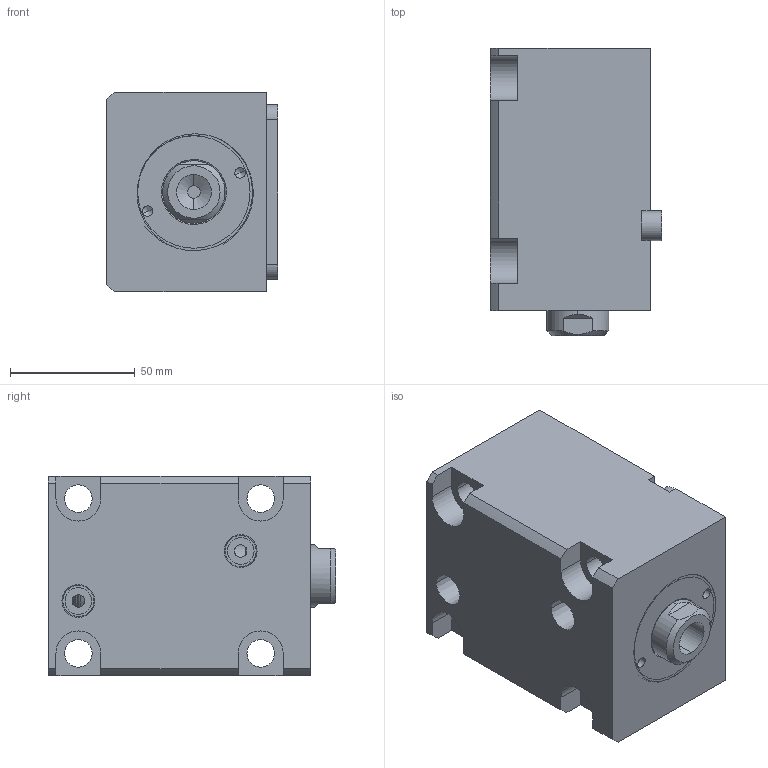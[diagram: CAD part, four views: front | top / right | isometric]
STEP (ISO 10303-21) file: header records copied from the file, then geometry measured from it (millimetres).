
FILE_DESCRIPTION (( 'STEP AP214' ), '1' );
FILE_NAME ('chtb-la40x50n_asm.STEP', '2018-06-02T05:38:07', ( 'Windows' ), ( 'Microsoft' ), 'SwSTEP 2.0', 'SolidWorks 2015', '' );
FILE_SCHEMA (( 'AUTOMOTIVE_DESIGN' ));
Length unit declared in the file: millimetre
Products named in the file (5): CHTB-SD40X50NHSG; CHTB-SD40QG; CHTB-LA40X50NBT; CHTB-LA40PJ; chtb-la40x50n_asm
Assembly tree (4 placements, depth 2):
  chtb-la40x50n_asm
    CHTB-LA40PJ
    CHTB-LA40X50NBT
    CHTB-SD40QG
    CHTB-SD40X50NHSG
Bounding box: 68.5 x 115 x 80 mm (x, y, z)
Volume: 460810.2 mm3; surface area: 89554.1 mm2
Topology: 4 solids, 4 shells, 160 faces, 430 edges, 286 vertices
Faces by surface type: cylinder 73, plane 48, bspline 14, cone 13, torus 12
Entity records: 10258 total; most frequent: CARTESIAN_POINT 6106, ORIENTED_EDGE 848, DIRECTION 787, EDGE_CURVE 424, AXIS2_PLACEMENT_3D 314, VERTEX_POINT 286, EDGE_LOOP 188, CIRCLE 161
